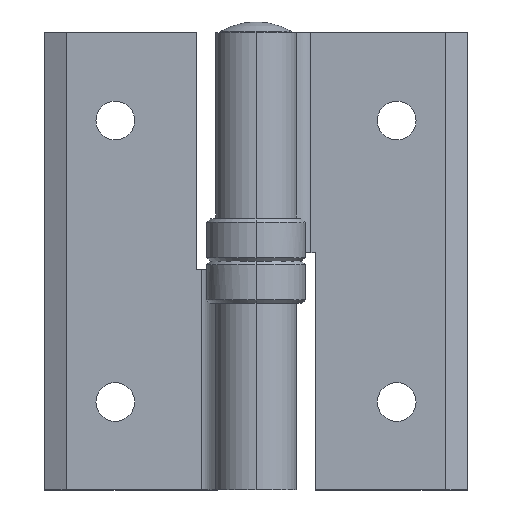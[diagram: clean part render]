
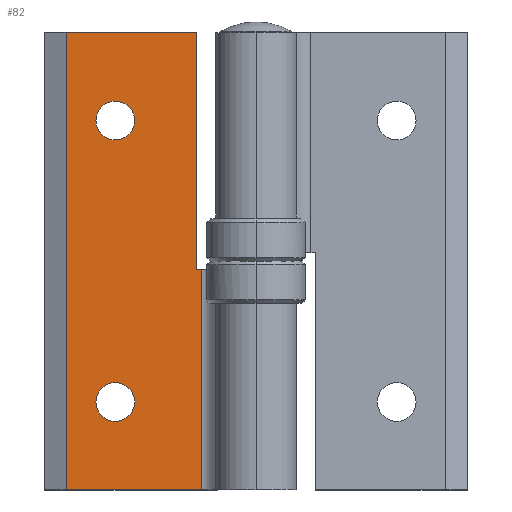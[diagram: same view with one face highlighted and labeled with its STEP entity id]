
A CAD part, top view. The second image highlights one B-rep face of the part: STEP entity #82.
In plain terms, the highlighted planar face has unit normal (0, 0, 1).
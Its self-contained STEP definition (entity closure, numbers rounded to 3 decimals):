
#82=ADVANCED_FACE('',(#170,#171,#172),#173,.F.);
#170=FACE_OUTER_BOUND('',#351,.T.);
#171=FACE_BOUND('',#352,.T.);
#172=FACE_BOUND('',#353,.T.);
#173=PLANE('',#354);
#351=EDGE_LOOP('',(#628,#629,#630,#631,#632,#633));
#352=EDGE_LOOP('',(#634,#635));
#353=EDGE_LOOP('',(#636,#637));
#354=AXIS2_PLACEMENT_3D('',#638,#639,#640);
#628=ORIENTED_EDGE('',*,*,#1105,.F.);
#629=ORIENTED_EDGE('',*,*,#1106,.F.);
#630=ORIENTED_EDGE('',*,*,#1107,.T.);
#631=ORIENTED_EDGE('',*,*,#1108,.T.);
#632=ORIENTED_EDGE('',*,*,#1103,.F.);
#633=ORIENTED_EDGE('',*,*,#1109,.F.);
#634=ORIENTED_EDGE('',*,*,#1051,.F.);
#635=ORIENTED_EDGE('',*,*,#1110,.F.);
#636=ORIENTED_EDGE('',*,*,#1055,.F.);
#637=ORIENTED_EDGE('',*,*,#1111,.F.);
#638=CARTESIAN_POINT('',(-27.0,32.5,-4.5));
#639=DIRECTION('',(0.0,0.0,-1.0));
#640=DIRECTION('',(0.0,-1.0,0.0));
#1051=EDGE_CURVE('',#1234,#1237,#1238,.F.);
#1055=EDGE_CURVE('',#1242,#1245,#1246,.F.);
#1103=EDGE_CURVE('',#1320,#1322,#1323,.T.);
#1105=EDGE_CURVE('',#1325,#1326,#1327,.T.);
#1106=EDGE_CURVE('',#1328,#1325,#1329,.T.);
#1107=EDGE_CURVE('',#1328,#1330,#1331,.T.);
#1108=EDGE_CURVE('',#1330,#1322,#1332,.T.);
#1109=EDGE_CURVE('',#1326,#1320,#1333,.T.);
#1110=EDGE_CURVE('',#1237,#1234,#1334,.F.);
#1111=EDGE_CURVE('',#1245,#1242,#1335,.F.);
#1234=VERTEX_POINT('',#1541);
#1237=VERTEX_POINT('',#1545);
#1238=CIRCLE('',#1546,2.75);
#1242=VERTEX_POINT('',#1551);
#1245=VERTEX_POINT('',#1555);
#1246=CIRCLE('',#1556,2.75);
#1320=VERTEX_POINT('',#1662);
#1322=VERTEX_POINT('',#1664);
#1323=LINE('',#1665,#1666);
#1325=VERTEX_POINT('',#1668);
#1326=VERTEX_POINT('',#1669);
#1327=LINE('',#1670,#1671);
#1328=VERTEX_POINT('',#1672);
#1329=LINE('',#1673,#1674);
#1330=VERTEX_POINT('',#1675);
#1331=LINE('',#1676,#1677);
#1332=LINE('',#1678,#1679);
#1333=LINE('',#1680,#1681);
#1334=CIRCLE('',#1682,2.75);
#1335=CIRCLE('',#1683,2.75);
#1541=CARTESIAN_POINT('',(-22.75,-20.0,-4.5));
#1545=CARTESIAN_POINT('',(-17.25,-20.0,-4.5));
#1546=AXIS2_PLACEMENT_3D('',#1923,#1924,#1925);
#1551=CARTESIAN_POINT('',(-22.75,20.0,-4.5));
#1555=CARTESIAN_POINT('',(-17.25,20.0,-4.5));
#1556=AXIS2_PLACEMENT_3D('',#1931,#1932,#1933);
#1662=CARTESIAN_POINT('',(-7.803,-1.2,-4.5));
#1664=CARTESIAN_POINT('',(-7.803,-32.5,-4.5));
#1665=CARTESIAN_POINT('',(-7.803,32.5,-4.5));
#1666=VECTOR('',#2017,1000.0);
#1668=CARTESIAN_POINT('',(-8.5,32.5,-4.5));
#1669=CARTESIAN_POINT('',(-8.5,-1.2,-4.5));
#1670=CARTESIAN_POINT('',(-8.5,32.5,-4.5));
#1671=VECTOR('',#2021,1000.0);
#1672=CARTESIAN_POINT('',(-27.0,32.5,-4.5));
#1673=CARTESIAN_POINT('',(-27.0,32.5,-4.5));
#1674=VECTOR('',#2022,1000.0);
#1675=CARTESIAN_POINT('',(-27.0,-32.5,-4.5));
#1676=CARTESIAN_POINT('',(-27.0,32.5,-4.5));
#1677=VECTOR('',#2023,1000.0);
#1678=CARTESIAN_POINT('',(-27.0,-32.5,-4.5));
#1679=VECTOR('',#2024,1000.0);
#1680=CARTESIAN_POINT('',(-27.0,-1.2,-4.5));
#1681=VECTOR('',#2025,1000.0);
#1682=AXIS2_PLACEMENT_3D('',#2026,#2027,#2028);
#1683=AXIS2_PLACEMENT_3D('',#2029,#2030,#2031);
#1923=CARTESIAN_POINT('',(-20.0,-20.0,-4.5));
#1924=DIRECTION('',(0.0,0.0,-1.0));
#1925=DIRECTION('',(-1.0,0.0,0.0));
#1931=CARTESIAN_POINT('',(-20.0,20.0,-4.5));
#1932=DIRECTION('',(0.0,0.0,-1.0));
#1933=DIRECTION('',(-1.0,0.0,0.0));
#2017=DIRECTION('',(-0.0,-1.0,-0.0));
#2021=DIRECTION('',(0.0,-1.0,0.0));
#2022=DIRECTION('',(1.0,0.0,0.0));
#2023=DIRECTION('',(-0.0,-1.0,-0.0));
#2024=DIRECTION('',(1.0,0.0,0.0));
#2025=DIRECTION('',(1.0,-0.0,0.0));
#2026=CARTESIAN_POINT('',(-20.0,-20.0,-4.5));
#2027=DIRECTION('',(0.0,0.0,-1.0));
#2028=DIRECTION('',(-1.0,0.0,0.0));
#2029=CARTESIAN_POINT('',(-20.0,20.0,-4.5));
#2030=DIRECTION('',(0.0,0.0,-1.0));
#2031=DIRECTION('',(-1.0,0.0,0.0));
